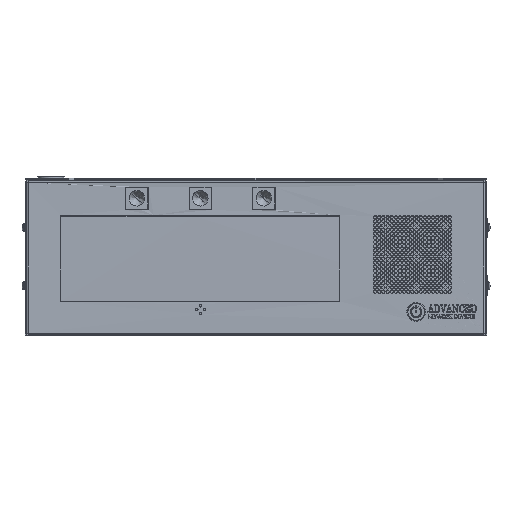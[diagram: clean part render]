
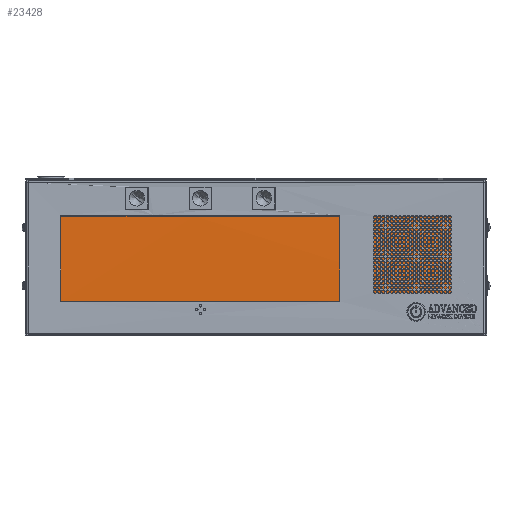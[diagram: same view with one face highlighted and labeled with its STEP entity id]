
A CAD part, top view. The second image highlights one B-rep face of the part: STEP entity #23428.
In plain terms, the highlighted planar face has unit normal (0, 0, 1).
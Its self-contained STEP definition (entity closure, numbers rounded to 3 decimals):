
#1035 = CARTESIAN_POINT ( 'NONE',  ( 152.57, 264.537, 392.173 ) ) ;
#4179 = CARTESIAN_POINT ( 'NONE',  ( 218.187, 306.447, 392.173 ) ) ;
#5167 = EDGE_CURVE ( 'NONE', #38990, #62967, #46557, .T. ) ;
#9845 = EDGE_CURVE ( 'NONE', #62967, #54187, #61695, .T. ) ;
#13327 = ORIENTED_EDGE ( 'NONE', *, *, #39873, .F. ) ;
#15586 = EDGE_LOOP ( 'NONE', ( #16821, #40409, #13327, #40434 ) ) ;
#15789 = DIRECTION ( 'NONE',  ( 0., 0., -1. ) ) ;
#16015 = PLANE ( 'NONE',  #45621 ) ;
#16821 = ORIENTED_EDGE ( 'NONE', *, *, #5167, .F. ) ;
#17509 = CARTESIAN_POINT ( 'NONE',  ( -44.28, 306.447, 392.173 ) ) ;
#23428 = ADVANCED_FACE ( 'NONE', ( #53363 ), #16015, .F. ) ;
#23882 = CARTESIAN_POINT ( 'NONE',  ( 349.42, 306.447, 392.173 ) ) ;
#27398 = CARTESIAN_POINT ( 'NONE',  ( -44.28, 222.627, 390.903 ) ) ;
#32038 = CARTESIAN_POINT ( 'NONE',  ( 349.42, 306.447, 389.633 ) ) ;
#32078 = VERTEX_POINT ( 'NONE', #33564 ) ;
#32811 = CARTESIAN_POINT ( 'NONE',  ( -44.28, 222.627, 389.633 ) ) ;
#33564 = CARTESIAN_POINT ( 'NONE',  ( 349.42, 306.447, 390.903 ) ) ;
#34677 = CARTESIAN_POINT ( 'NONE',  ( -44.28, 278.507, 389.633 ) ) ;
#35132 = CARTESIAN_POINT ( 'NONE',  ( -44.28, 250.567, 389.633 ) ) ;
#36174 = B_SPLINE_CURVE_WITH_KNOTS ( 'NONE', 3,
 ( #17509, #49794, #4179, #23882 ),
 .UNSPECIFIED., .F., .F.,
 ( 4, 4 ),
 ( 0., 1. ),
 .UNSPECIFIED. ) ;
#38990 = VERTEX_POINT ( 'NONE', #47573 ) ;
#39768 = EDGE_CURVE ( 'NONE', #32078, #38990, #41766, .T. ) ;
#39873 = EDGE_CURVE ( 'NONE', #54187, #32078, #36174, .T. ) ;
#40409 = ORIENTED_EDGE ( 'NONE', *, *, #39768, .F. ) ;
#40434 = ORIENTED_EDGE ( 'NONE', *, *, #9845, .F. ) ;
#41426 = CARTESIAN_POINT ( 'NONE',  ( 349.42, 222.627, 389.633 ) ) ;
#41766 = B_SPLINE_CURVE_WITH_KNOTS ( 'NONE', 3,
 ( #32038, #61858, #42289, #41426 ),
 .UNSPECIFIED., .F., .F.,
 ( 4, 4 ),
 ( 0., 1. ),
 .UNSPECIFIED. ) ;
#42185 = CARTESIAN_POINT ( 'NONE',  ( 218.187, 222.627, 389.633 ) ) ;
#42289 = CARTESIAN_POINT ( 'NONE',  ( 349.42, 250.567, 389.633 ) ) ;
#42400 = CARTESIAN_POINT ( 'NONE',  ( 349.42, 222.627, 389.633 ) ) ;
#42644 = CARTESIAN_POINT ( 'NONE',  ( -44.28, 306.447, 390.903 ) ) ;
#45621 = AXIS2_PLACEMENT_3D ( 'NONE', #1035, #15789, #61899 ) ;
#46557 = B_SPLINE_CURVE_WITH_KNOTS ( 'NONE', 3,
 ( #42400, #42185, #63504, #32811 ),
 .UNSPECIFIED., .F., .F.,
 ( 4, 4 ),
 ( 0., 1. ),
 .UNSPECIFIED. ) ;
#47573 = CARTESIAN_POINT ( 'NONE',  ( 349.42, 222.627, 390.903 ) ) ;
#49794 = CARTESIAN_POINT ( 'NONE',  ( 86.953, 306.447, 392.173 ) ) ;
#50136 = CARTESIAN_POINT ( 'NONE',  ( -44.28, 306.447, 389.633 ) ) ;
#53363 = FACE_OUTER_BOUND ( 'NONE', #15586, .T. ) ;
#54187 = VERTEX_POINT ( 'NONE', #42644 ) ;
#60472 = CARTESIAN_POINT ( 'NONE',  ( -44.28, 222.627, 389.633 ) ) ;
#61695 = B_SPLINE_CURVE_WITH_KNOTS ( 'NONE', 3,
 ( #60472, #35132, #34677, #50136 ),
 .UNSPECIFIED., .F., .F.,
 ( 4, 4 ),
 ( 0., 1. ),
 .UNSPECIFIED. ) ;
#61858 = CARTESIAN_POINT ( 'NONE',  ( 349.42, 278.507, 389.633 ) ) ;
#61899 = DIRECTION ( 'NONE',  ( 0., -1., 0. ) ) ;
#62967 = VERTEX_POINT ( 'NONE', #27398 ) ;
#63504 = CARTESIAN_POINT ( 'NONE',  ( 86.953, 222.627, 389.633 ) ) ;
